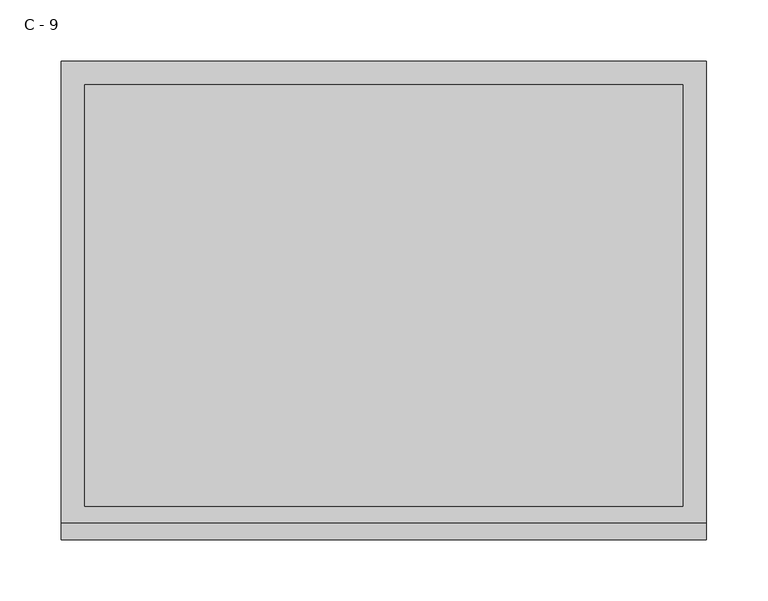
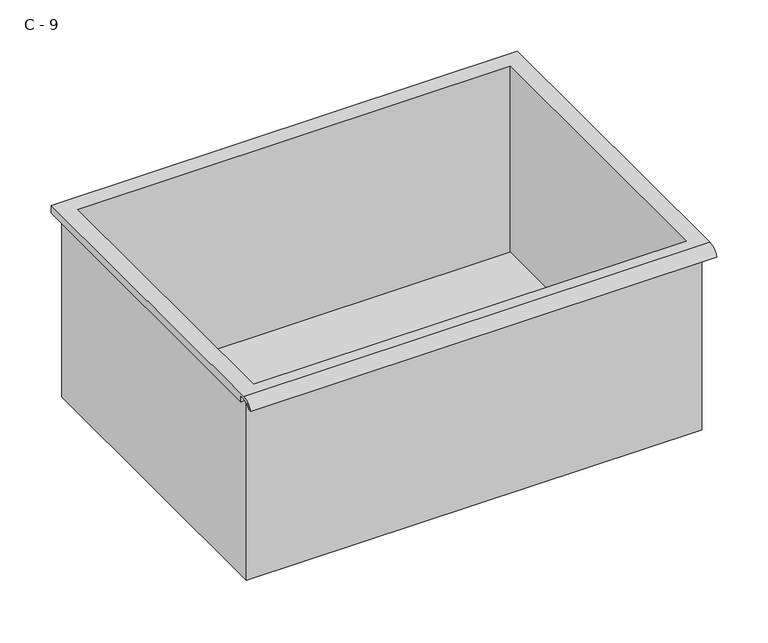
"""IFC4 building model written with IfcOpenShell, lengths in millimetres: furniture geometry, HermanMiller_CoStruc_CO207_Drawer : C - 9."""

from ifc_helpers import new_model, si_unit, frame, origin, place, context, project, spatial, polyline, circle_curve, source, transform, mapped, element, save
from ifc_brep_helpers import plane_surface, cylinder_surface, revolved_surface, advanced_brep


def c_9_eb0a6738(model_context):
    return source(origin(), model_context, "Body", "AdvancedBrep", [
        advanced_brep(
        [(-257.1076517, -176.2125, 338.1502), (257.2423483, -176.2125, 338.1502), (257.2423483, -176.2125, 554.0502), (263.5923483, -176.2125, 554.0502), (263.5923483, -176.2125, 560.3573341), (-263.4576517, -176.2125, 560.3573341), (-263.4576517, -176.2125, 554.0502), (-257.1076517, -176.2125, 554.0502), (257.2423483, 185.7375, 338.1502), (-257.1076517, 185.7375, 338.1502), (-257.1076517, 185.7375, 554.0502), (257.2423483, 185.7375, 554.0502), (263.5923483, -181.6070544, 563.5752), (263.5923483, 195.2625, 563.5752), (-263.4576517, 195.2625, 563.5752), (-263.4576517, -181.6070544, 563.5752), (244.5423483, -168.275, 563.5752), (-244.4076517, -168.275, 563.5752), (-244.4076517, 176.2125, 563.5752), (244.5423483, 176.2125, 563.5752), (263.5923483, -195.2625, 554.0502), (263.5923483, -191.8280601, 554.0502), (263.5923483, -180.4714815, 560.3573341), (263.5923483, 195.2625, 554.0502), (-263.4576517, 195.2625, 554.0502), (-263.4576517, -180.4714815, 560.3573341), (-263.4576517, -191.8280601, 554.0502), (-263.4576517, -195.2625, 554.0502), (-244.4076517, -168.275, 341.1763719), (244.5423483, -168.275, 341.1763719), (244.5423483, 176.2125, 341.1763719), (-244.4076517, 176.2125, 341.1763719)],
        [
            (0, 1),
            (1, 2),
            (2, 3),
            (3, 4),
            (4, 5),
            (5, 6),
            (6, 7),
            (7, 0),
            (8, 9),
            (9, 10),
            (10, 11),
            (11, 8),
            (0, 9),
            (8, 1),
            (11, 2),
            (12, 13),
            (13, 14),
            (14, 15),
            (15, 12),
            (16, 17),
            (17, 18),
            (18, 19),
            (19, 16),
            (7, 10),
            (12, 20, circle_curve(frame((263.5923483, -181.6070544, 549.0241859), z_axis=(1.0, 0.0, 0.0), x_axis=(0.0, 1.0, 0.0)), 14.5510141)),
            (20, 21),
            (21, 22, circle_curve(frame((263.5923483, -181.6070544, 549.0241859), z_axis=(-1.0, 0.0, 0.0), x_axis=(0.0, 1.0, 0.0)), 11.3898979)),
            (22, 4),
            (3, 23),
            (23, 13),
            (14, 24),
            (24, 6),
            (5, 25),
            (25, 26, circle_curve(frame((-263.4576517, -181.6070544, 549.0241859), z_axis=(1.0, 0.0, 0.0), x_axis=(0.0, 1.0, 0.0)), 11.3898979)),
            (26, 27),
            (27, 15, circle_curve(frame((-263.4576517, -181.6070544, 549.0241859), z_axis=(-1.0, 0.0, 0.0), x_axis=(0.0, 1.0, 0.0)), 14.5510141)),
            (27, 20),
            (26, 21),
            (25, 22),
            (24, 23),
            (28, 29),
            (29, 30),
            (30, 31),
            (31, 28),
            (28, 17),
            (16, 29),
            (19, 30),
            (18, 31),
        ],
        [
            plane_surface(frame((257.2423483, -176.2125, 338.1502), z_axis=(0.0, -1.0, 0.0), x_axis=(1.0, 0.0, 0.0))),
            plane_surface(frame((257.2423483, 185.7375, 338.1502), z_axis=(0.0, 1.0, 0.0), x_axis=(-1.0, 0.0, 0.0))),
            plane_surface(frame((-257.1076517, -176.2125, 338.1502), z_axis=(0.0, 0.0, -1.0), x_axis=(0.0, 1.0, 0.0))),
            plane_surface(frame((257.2423483, -176.2125, 338.1502), z_axis=(1.0, 0.0, 0.0), x_axis=(0.0, 1.0, 0.0))),
            plane_surface(frame((257.2423483, -176.2125, 563.5752), z_axis=(0.0, 0.0, 1.0), x_axis=(0.0, 1.0, 0.0))),
            plane_surface(frame((-257.1076517, -176.2125, 563.5752), z_axis=(-1.0, 0.0, 0.0), x_axis=(0.0, 1.0, 0.0))),
            plane_surface(frame((263.5923483, 195.2625, 563.5752), z_axis=(1.0, 0.0, 0.0), x_axis=(0.0, -1.0, 0.0))),
            plane_surface(frame((-263.4576517, 195.2625, 563.5752), z_axis=(-1.0, 0.0, 0.0), x_axis=(0.0, 1.0, 0.0))),
            cylinder_surface(frame((-263.4576517, -181.6070544, 549.0241859), z_axis=(1.0, 0.0, 0.0), x_axis=(0.0, 1.0, 0.0)), 14.5510141),
            plane_surface(frame((263.5923483, -195.2625, 554.0502), z_axis=(0.0, 0.0, -1.0), x_axis=(-1.0, 0.0, 0.0))),
            revolved_surface(polyline([(-263.4576517, -170.21715650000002, 549.0241859), (263.59234829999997, -170.21715650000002, 549.0241859)]), (-263.4576517, -181.6070544, 549.0241859), (-1.0, 0.0, 0.0)),
            plane_surface(frame((263.5923483, -180.4714815, 560.3573341), z_axis=(0.0, 0.0, -1.0), x_axis=(-1.0, 0.0, 0.0))),
            plane_surface(frame((263.5923483, -176.2125, 554.0502), z_axis=(0.0, 0.0, -1.0), x_axis=(-1.0, 0.0, 0.0))),
            plane_surface(frame((263.5923483, 195.2625, 554.0502), z_axis=(0.0, 1.0, 0.0), x_axis=(-1.0, 0.0, 0.0))),
            plane_surface(frame((244.5423483, -168.275, 341.1763719), z_axis=(0.0, 0.0, 1.0), x_axis=(-1.0, 0.0, 0.0))),
            plane_surface(frame((-244.4076517, -168.275, 563.5752), z_axis=(0.0, 1.0, 0.0), x_axis=(0.0, 0.0, -1.0))),
            plane_surface(frame((244.5423483, -168.275, 563.5752), z_axis=(-1.0, 0.0, 0.0), x_axis=(0.0, 0.0, -1.0))),
            plane_surface(frame((244.5423483, 176.2125, 563.5752), z_axis=(0.0, -1.0, 0.0), x_axis=(0.0, 0.0, -1.0))),
            plane_surface(frame((-244.4076517, 176.2125, 563.5752), z_axis=(1.0, 0.0, 0.0), x_axis=(0.0, 0.0, -1.0))),
        ],
        [
            (0, [[1, 2, 3, 4, 5, 6, 7, 8]]),
            (1, [[9, 10, 11, 12]]),
            (2, [[-1, 13, -9, 14]]),
            (3, [[-14, -12, 15, -2]]),
            (4, [[16, 17, 18, 19], [20, 21, 22, 23]]),
            (5, [[-13, -8, 24, -10]]),
            (6, [[-16, 25, 26, 27, 28, -4, 29, 30]]),
            (7, [[31, 32, -6, 33, 34, 35, 36, -18]]),
            (8, [[-25, -19, -36, 37]]),
            (9, [[-26, -37, -35, 38]]),
            (10, [[-27, -38, -34, 39]]),
            (11, [[-28, -39, -33, -5]]),
            (12, [[-29, -3, -15, -11, -24, -7, -32, 40]]),
            (13, [[-30, -40, -31, -17]]),
            (14, [[41, 42, 43, 44]]),
            (15, [[-41, 45, -20, 46]]),
            (16, [[-42, -46, -23, 47]]),
            (17, [[-43, -47, -22, 48]]),
            (18, [[-44, -48, -21, -45]]),
        ],
    ),
    ])


if __name__ == "__main__":
    model = new_model("IFC4")
    model_context = context("Model", 3, world=origin())
    ifc_project = project(units=[si_unit("LENGTHUNIT", "METRE", prefix="MILLI")], contexts=[model_context])
    site = spatial("IfcSite", under=ifc_project)
    building = spatial("IfcBuilding", under=site)
    placement = place(None, origin())
    c_9_shape = c_9_eb0a6738(model_context)
    element("IfcFurniture", 1, ObjectType="HermanMiller_CoStruc_CO207_Drawer : C - 9", at=placement, inside=building, context=model_context, shape_type="MappedRepresentation", body=[
        mapped(c_9_shape, transform((0.0, 0.0, 0.0), x_axis=(1.0, 0.0, 0.0), y_axis=(0.0, 1.0, 0.0), z_axis=(0.0, 0.0, 1.0))),
    ])
    save(model, "model.ifc")
